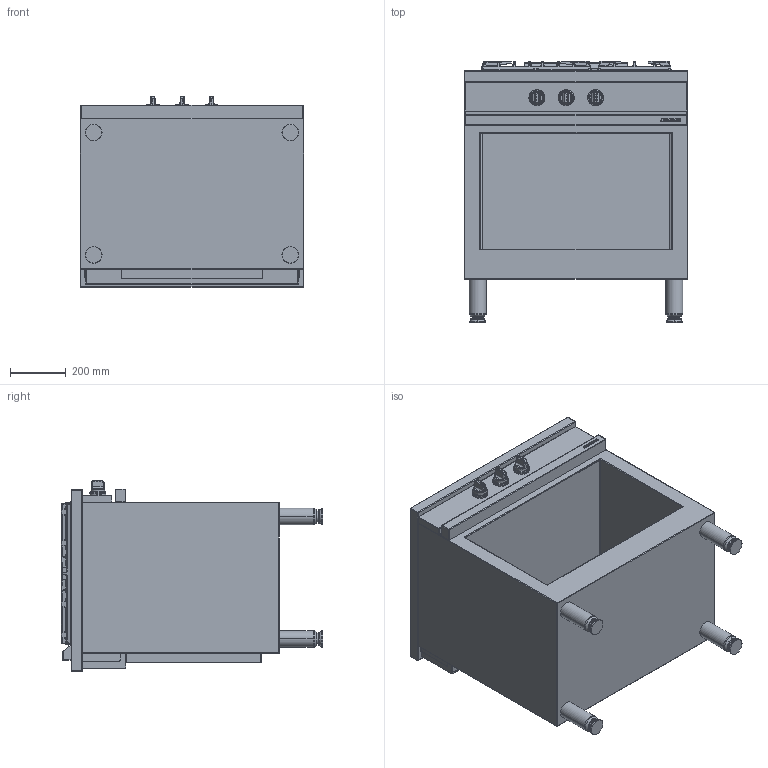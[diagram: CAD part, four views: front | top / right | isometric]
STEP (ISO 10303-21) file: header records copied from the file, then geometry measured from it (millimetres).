
FILE_DESCRIPTION((''),'2;1');
FILE_NAME('CMG830XR_EXPORT_STEP_ASM','2017-11-22T',('r.avril'),(''),'PRO/ENGINEER BY PARAMETRIC TECHNOLOGY CORPORATION, 2014200','PRO/ENGINEER BY PARAMETRIC TECHNOLOGY CORPORATION, 2014200','');
FILE_SCHEMA(('AP203_CONFIGURATION_CONTROLLED_3D_DESIGN_OF_MECHANICAL_PARTS_AND_ASSEMBLIES_MIM_LF { 1 0 10303 403 2 1 2 }'));
Products named in the file (12): MODULES_AMB_800_EXPORT_STEP; TABLE_830_XR; BRULEUR_7_KW; 3KW; 6537025; 65149005; 90000488_ASM; 6537023; 90000565_ASM; TABLE_830_XR_ASM; MANETTE_AMB_EXPORT_STEP; CMG830XR_EXPORT_STEP_ASM
Assembly tree (22 placements, depth 4):
  CMG830XR_EXPORT_STEP_ASM
    MODULES_AMB_800_EXPORT_STEP
    TABLE_830_XR_ASM
      TABLE_830_XR
      BRULEUR_7_KW
      3KW  x2
      90000488_ASM  x2
        6537025
        65149005
      90000565_ASM
        6537023
        65149005  x4
    MANETTE_AMB_EXPORT_STEP  x3
Bounding box: 800 x 935 x 682.5 mm (x, y, z)
Volume: 103512306.7 mm3; surface area: 6961316.3 mm2
Topology: 32 solids, 50 shells, 2765 faces, 7697 edges, 5379 vertices
Faces by surface type: cylinder 832, bspline 772, plane 696, cone 218, torus 118, sphere 109, extrusion 20
Entity records: 97944 total; most frequent: CARTESIAN_POINT 36203, ORIENTED_EDGE 9018, DIRECTION 7948, EDGE_CURVE 4734, PRESENTATION_STYLE_ASSIGNMENT 4246, STYLED_ITEM 4246, CURVE_STYLE 4052, VERTEX_POINT 2931
